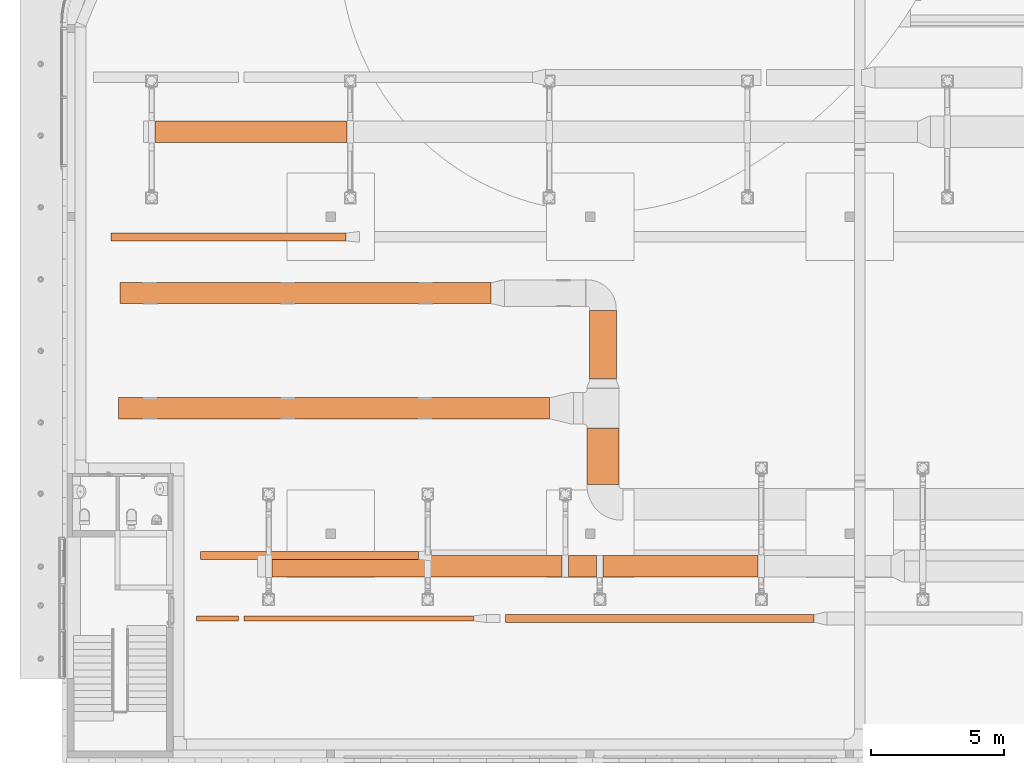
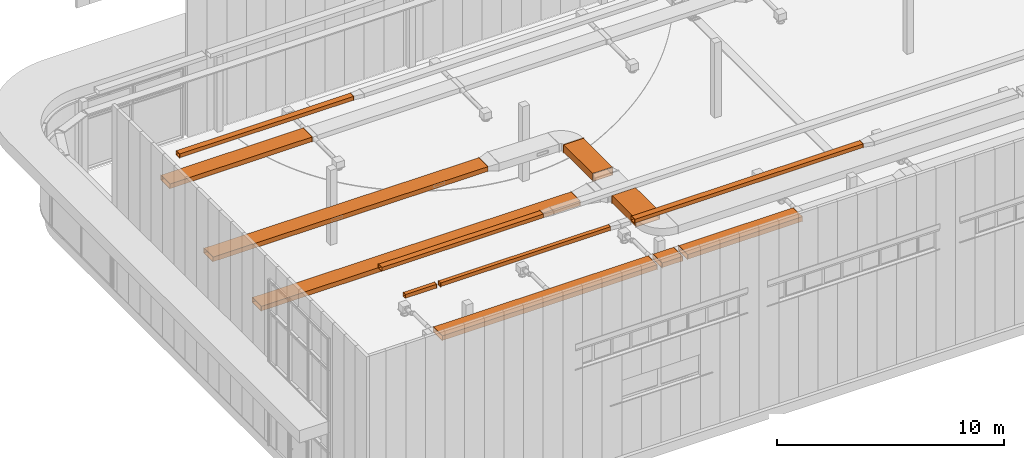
# One storey, part 291 of 302: 13 proxies.
"""IFC2X3 building model written with IfcOpenShell, lengths in metres."""

from ifc_helpers import new_model, entity, si_unit, converted_unit, derived_unit, direction, frame, origin, place, context, subcontext, project, spatial, face_set, surface_model, type_object, element, save


model = new_model("IFC2X3")

# Units and contexts
model_context = context("Model", 3, precision=1e-05, world=origin(), true_north=direction((6.12303176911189e-17, 1.0)))
body_context = subcontext(model_context, "Body", "Model", "MODEL_VIEW")
ifc_project = project(units=[si_unit("LENGTHUNIT", "METRE"), si_unit("AREAUNIT", "SQUARE_METRE"), si_unit("VOLUMEUNIT", "CUBIC_METRE"), converted_unit("PLANEANGLEUNIT", "DEGREE", entity("IfcRatioMeasure", 0.0174532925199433), si_unit("PLANEANGLEUNIT", "RADIAN"), dimensions=[0, 0, 0, 0, 0, 0, 0]), si_unit("MASSUNIT", "GRAM", prefix="KILO"), derived_unit("MASSDENSITYUNIT", [(si_unit("MASSUNIT", "GRAM", prefix="KILO"), 1), (si_unit("LENGTHUNIT", "METRE"), -3)]), derived_unit("MOMENTOFINERTIAUNIT", [(si_unit("LENGTHUNIT", "METRE"), 4)]), si_unit("TIMEUNIT", "SECOND"), si_unit("FREQUENCYUNIT", "HERTZ"), si_unit("THERMODYNAMICTEMPERATUREUNIT", "DEGREE_CELSIUS"), derived_unit("THERMALTRANSMITTANCEUNIT", [(si_unit("MASSUNIT", "GRAM", prefix="KILO"), 1), (si_unit("THERMODYNAMICTEMPERATUREUNIT", "KELVIN"), -1), (si_unit("TIMEUNIT", "SECOND"), -3)]), derived_unit("VOLUMETRICFLOWRATEUNIT", [(si_unit("LENGTHUNIT", "METRE"), 3), (si_unit("TIMEUNIT", "SECOND"), -1)]), si_unit("ELECTRICCURRENTUNIT", "AMPERE"), si_unit("ELECTRICVOLTAGEUNIT", "VOLT"), si_unit("POWERUNIT", "WATT"), si_unit("FORCEUNIT", "NEWTON", prefix="KILO"), si_unit("ILLUMINANCEUNIT", "LUX"), si_unit("LUMINOUSFLUXUNIT", "LUMEN"), si_unit("LUMINOUSINTENSITYUNIT", "CANDELA"), derived_unit("USERDEFINED", [(si_unit("MASSUNIT", "GRAM", prefix="KILO"), -1), (si_unit("LENGTHUNIT", "METRE"), -2), (si_unit("TIMEUNIT", "SECOND"), 3), (si_unit("LUMINOUSFLUXUNIT", "LUMEN"), 1)]), derived_unit("LINEARVELOCITYUNIT", [(si_unit("LENGTHUNIT", "METRE"), 1), (si_unit("TIMEUNIT", "SECOND"), -1)]), si_unit("PRESSUREUNIT", "PASCAL"), derived_unit("USERDEFINED", [(si_unit("LENGTHUNIT", "METRE"), -2), (si_unit("MASSUNIT", "GRAM", prefix="KILO"), 1), (si_unit("TIMEUNIT", "SECOND"), -2)]), derived_unit("LINEARFORCEUNIT", [(si_unit("MASSUNIT", "GRAM", prefix="KILO"), 1), (si_unit("LENGTHUNIT", "METRE"), 1), (si_unit("TIMEUNIT", "SECOND"), -2), (si_unit("LENGTHUNIT", "METRE"), -1)]), derived_unit("PLANARFORCEUNIT", [(si_unit("MASSUNIT", "GRAM", prefix="KILO"), 1), (si_unit("LENGTHUNIT", "METRE"), 1), (si_unit("TIMEUNIT", "SECOND"), -2), (si_unit("LENGTHUNIT", "METRE"), -2)])], contexts=[model_context])

# Site, building, storey
site_placement = place(None, origin())
site = spatial("IfcSite", under=ifc_project, at=site_placement, Name="Default", CompositionType="ELEMENT")
building_placement = place(site_placement, origin())
building = spatial("IfcBuilding", under=site, at=building_placement, CompositionType="ELEMENT")
storey_placement = place(building_placement, frame((0.0, 0.0, -1.3)))
storey = spatial("IfcBuildingStorey", under=building, at=storey_placement, Name="00_EG", CompositionType="ELEMENT", Elevation=-1.3)

# Proxies
building_element_proxy_type_1 = type_object("IfcBuildingElementProxyType", Name="Straight:Vorgabe", PredefinedType="NOTDEFINED")
proxy_1_placement = place(storey_placement, frame((-247.076926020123, 25.3124450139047, 4.82460000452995)))
element("IfcBuildingElementProxy", 1, at=proxy_1_placement, inside=storey, type_object=building_element_proxy_type_1, Name="Straight:Vorgabe", ObjectType="Straight:Vorgabe", context=body_context, shape_type="SurfaceModel", body=[
    surface_model("IfcFaceBasedSurfaceModel", [(1.22540005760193, 0.0, 0.425399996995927), (1.22540005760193, 2.11286347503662, 0.42539999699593), (0.0254000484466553, 2.11286347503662, 0.425399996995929), (0.0254000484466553, 0.0, 0.425399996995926), (0.0254000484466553, 2.11286347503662, 0.0253999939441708), (0.0254000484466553, 0.0, 0.0253999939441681), (1.22540005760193, 2.11286347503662, 0.0253999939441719), (1.22540005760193, 0.0, 0.0253999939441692), (1.25080010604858, 1.00000003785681e-06, 0.0), (1.25080010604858, 1.00000003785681e-06, 0.450799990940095), (0.0, 1.00000003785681e-06, 0.450799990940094), (0.0, 1.00000003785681e-06, 0.0), (0.0, 2.11286260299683, 0.0), (0.0, 2.11286260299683, 0.450799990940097), (1.25080010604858, 2.11286260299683, 0.450799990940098), (1.25080010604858, 2.11286260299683, 0.0)], [face_set([[[0, 1, 2]], [[2, 3, 0]], [[3, 2, 4]], [[4, 5, 3]], [[5, 4, 6]], [[6, 7, 5]], [[7, 6, 1]], [[1, 0, 7]], [[8, 7, 0]], [[0, 9, 8]], [[9, 0, 3]], [[3, 10, 9]], [[10, 3, 5]], [[5, 11, 10]], [[11, 5, 7]], [[7, 8, 11]], [[12, 4, 2]], [[2, 13, 12]], [[13, 2, 1]], [[1, 14, 13]], [[14, 1, 6]], [[6, 15, 14]], [[15, 6, 4]], [[4, 12, 15]]])]),
])
building_element_proxy_type_2 = type_object("IfcBuildingElementProxyType", Name="Straight:Vorgabe", PredefinedType="NOTDEFINED")
proxy_2_placement = place(storey_placement, frame((-246.976925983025, 29.2953086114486, 4.82460000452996)))
element("IfcBuildingElementProxy", 2, at=proxy_2_placement, inside=storey, type_object=building_element_proxy_type_2, Name="Straight:Vorgabe", ObjectType="Straight:Vorgabe", context=body_context, shape_type="SurfaceModel", body=[
    surface_model("IfcFaceBasedSurfaceModel", [(1.02540001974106, 0.0, 0.425399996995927), (1.02540001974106, 2.57376964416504, 0.42539999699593), (0.0254000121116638, 2.57376964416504, 0.425399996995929), (0.0254000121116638, 0.0, 0.425399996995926), (0.0254000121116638, 2.57376964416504, 0.0253999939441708), (0.0254000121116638, 0.0, 0.0253999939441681), (1.02540001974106, 2.57376964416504, 0.0253999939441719), (1.02540001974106, 0.0, 0.0253999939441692), (1.05080003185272, 1.00000003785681e-06, 0.0), (1.05080003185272, 1.00000003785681e-06, 0.450799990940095), (0.0, 1.00000003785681e-06, 0.450799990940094), (0.0, 1.00000003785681e-06, 0.0), (0.0, 2.57376877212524, 0.0), (0.0, 2.57376877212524, 0.450799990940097), (1.05080003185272, 2.57376877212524, 0.450799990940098), (1.05080003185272, 2.57376877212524, 0.0)], [face_set([[[0, 1, 2]], [[2, 3, 0]], [[3, 2, 4]], [[4, 5, 3]], [[5, 4, 6]], [[6, 7, 5]], [[7, 6, 1]], [[1, 0, 7]], [[8, 7, 0]], [[0, 9, 8]], [[9, 0, 3]], [[3, 10, 9]], [[10, 3, 5]], [[5, 11, 10]], [[11, 5, 7]], [[7, 8, 11]], [[12, 4, 2]], [[2, 13, 12]], [[13, 2, 1]], [[1, 14, 13]], [[14, 1, 6]], [[6, 15, 14]], [[15, 6, 4]], [[4, 12, 15]]])]),
])
building_element_proxy_type_3 = type_object("IfcBuildingElementProxyType", Name="Straight:Vorgabe", PredefinedType="NOTDEFINED")
proxy_3_placement = place(storey_placement, frame((-264.672465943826, 32.0986784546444, 4.9432209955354)))
element("IfcBuildingElementProxy", 3, at=proxy_3_placement, inside=storey, type_object=building_element_proxy_type_3, Name="Straight:Vorgabe", ObjectType="Straight:Vorgabe", context=body_context, shape_type="SurfaceModel", body=[
    surface_model("IfcFaceBasedSurfaceModel", [(14.0030683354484, 0.825399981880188, 0.275399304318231), (0.000617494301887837, 0.825399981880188, 0.306778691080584), (0.000617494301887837, 0.0253999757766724, 0.306778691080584), (14.0030683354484, 0.0253999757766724, 0.275399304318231), (5.724758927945e-05, 0.0253999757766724, 0.0567793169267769), (14.0025080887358, 0.0253999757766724, 0.0253999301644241), (5.724758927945e-05, 0.825399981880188, 0.0567793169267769), (14.0025080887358, 0.825399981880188, 0.0253999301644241), (14.0024501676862, 0.85079995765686, 2.24098702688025e-09), (14.0031242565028, 0.85079995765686, 0.300799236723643), (14.0031242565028, 0.0, 0.300799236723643), (14.0024501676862, 0.0, 2.24098702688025e-09), (1.48925406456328e-06, 0.0, 0.0313793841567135), (0.000675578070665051, 0.0, 0.332178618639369), (0.000675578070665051, 0.85079995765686, 0.332178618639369), (1.48925406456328e-06, 0.85079995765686, 0.0313793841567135)], [face_set([[[0, 1, 2]], [[2, 3, 0]], [[3, 2, 4]], [[4, 5, 3]], [[5, 4, 6]], [[6, 7, 5]], [[7, 6, 1]], [[1, 0, 7]], [[8, 7, 0]], [[0, 9, 8]], [[9, 0, 3]], [[3, 10, 9]], [[10, 3, 5]], [[5, 11, 10]], [[11, 5, 7]], [[7, 8, 11]], [[12, 4, 2]], [[2, 13, 12]], [[13, 2, 1]], [[1, 14, 13]], [[14, 1, 6]], [[6, 15, 14]], [[15, 6, 4]], [[4, 12, 15]]])]),
])
building_element_proxy_type_4 = type_object("IfcBuildingElementProxyType", Name="Straight:Vorgabe", PredefinedType="NOTDEFINED")
proxy_4_placement = place(storey_placement, frame((-258.934474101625, 21.796415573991, 4.97460000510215)))
element("IfcBuildingElementProxy", 4, at=proxy_4_placement, inside=storey, type_object=building_element_proxy_type_4, Name="Straight:Vorgabe", ObjectType="Straight:Vorgabe", context=body_context, shape_type="SurfaceModel", body=[
    surface_model("IfcFaceBasedSurfaceModel", [(10.9400570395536, 0.825399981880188, 0.275399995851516), (3.89773362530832e-07, 0.825399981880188, 0.275399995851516), (3.89773362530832e-07, 0.0253999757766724, 0.275399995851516), (10.9400570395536, 0.0253999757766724, 0.275399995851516), (3.89773362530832e-07, 0.0253999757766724, 0.0253999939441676), (10.9400570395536, 0.0253999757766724, 0.0253999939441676), (3.89773362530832e-07, 0.825399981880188, 0.0253999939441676), (10.9400570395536, 0.825399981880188, 0.0253999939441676), (10.9400560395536, 0.85079995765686, 0.0), (10.9400560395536, 0.85079995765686, 0.300799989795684), (10.9400560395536, 0.0, 0.300799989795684), (10.9400560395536, 0.0, 0.0), (1.55249308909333e-06, 0.0, 0.0), (1.55249308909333e-06, 0.0, 0.300799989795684), (1.55249308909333e-06, 0.85079995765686, 0.300799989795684), (1.55249308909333e-06, 0.85079995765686, 0.0)], [face_set([[[0, 1, 2]], [[2, 3, 0]], [[3, 2, 4]], [[4, 5, 3]], [[5, 4, 6]], [[6, 7, 5]], [[7, 6, 1]], [[1, 0, 7]], [[8, 7, 0]], [[0, 9, 8]], [[9, 0, 3]], [[3, 10, 9]], [[10, 3, 5]], [[5, 11, 10]], [[11, 5, 7]], [[7, 8, 11]], [[12, 4, 2]], [[2, 13, 12]], [[13, 2, 1]], [[1, 14, 13]], [[14, 1, 6]], [[6, 15, 14]], [[15, 6, 4]], [[4, 12, 15]]])]),
])
building_element_proxy_type_5 = type_object("IfcBuildingElementProxyType", Name="Straight:Vorgabe", PredefinedType="NOTDEFINED")
proxy_5_placement = place(storey_placement, frame((-247.744417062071, 21.796415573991, 4.97460000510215)))
element("IfcBuildingElementProxy", 5, at=proxy_5_placement, inside=storey, type_object=building_element_proxy_type_5, Name="Straight:Vorgabe", ObjectType="Straight:Vorgabe", context=body_context, shape_type="SurfaceModel", body=[
    surface_model("IfcFaceBasedSurfaceModel", [(0.0, 0.0253999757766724, 0.275399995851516), (1.04817664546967, 0.0253999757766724, 0.275399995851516), (1.04817664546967, 0.825399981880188, 0.275399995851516), (0.0, 0.825399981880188, 0.275399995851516), (1.04817664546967, 0.825399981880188, 0.0253999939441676), (0.0, 0.825399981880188, 0.0253999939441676), (1.04817664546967, 0.0253999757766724, 0.0253999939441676), (0.0, 0.0253999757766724, 0.0253999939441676), (1.00000003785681e-06, 0.0, 0.0), (1.00000003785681e-06, 0.0, 0.300799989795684), (1.00000003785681e-06, 0.85079995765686, 0.300799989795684), (1.00000003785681e-06, 0.85079995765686, 0.0), (1.0481756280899, 0.85079995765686, 0.0), (1.0481756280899, 0.85079995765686, 0.300799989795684), (1.0481756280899, 0.0, 0.300799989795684), (1.0481756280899, 0.0, 0.0)], [face_set([[[0, 1, 2]], [[2, 3, 0]], [[3, 2, 4]], [[4, 5, 3]], [[5, 4, 6]], [[6, 7, 5]], [[7, 6, 1]], [[1, 0, 7]], [[8, 7, 0]], [[0, 9, 8]], [[9, 0, 3]], [[3, 10, 9]], [[10, 3, 5]], [[5, 11, 10]], [[11, 5, 7]], [[7, 8, 11]], [[12, 4, 2]], [[2, 13, 12]], [[13, 2, 1]], [[1, 14, 13]], [[14, 1, 6]], [[6, 15, 14]], [[15, 6, 4]], [[4, 12, 15]]])]),
])
building_element_proxy_type_6 = type_object("IfcBuildingElementProxyType", Name="Straight:Vorgabe", PredefinedType="NOTDEFINED")
proxy_6_placement = place(storey_placement, frame((-264.722128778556, 27.7533086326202, 4.97460000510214)))
element("IfcBuildingElementProxy", 6, at=proxy_6_placement, inside=storey, type_object=building_element_proxy_type_6, Name="Straight:Vorgabe", ObjectType="Straight:Vorgabe", context=body_context, shape_type="SurfaceModel", body=[
    surface_model("IfcFaceBasedSurfaceModel", [(16.2446028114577, 0.825399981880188, 0.275399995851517), (1.77790669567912e-07, 0.825399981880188, 0.275399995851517), (1.77790669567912e-07, 0.0253999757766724, 0.275399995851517), (16.2446028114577, 0.0253999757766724, 0.275399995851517), (1.77790669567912e-07, 0.0253999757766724, 0.0253999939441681), (16.2446028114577, 0.0253999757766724, 0.0253999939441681), (1.77790669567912e-07, 0.825399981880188, 0.0253999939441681), (16.2446028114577, 0.825399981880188, 0.0253999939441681), (16.2446018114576, 0.85079995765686, 0.0), (16.2446018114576, 0.85079995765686, 0.300799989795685), (16.2446018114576, 0.0, 0.300799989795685), (16.2446018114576, 0.0, 0.0), (1.34051039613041e-06, 0.0, 0.0), (1.34051039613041e-06, 0.0, 0.300799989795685), (1.34051039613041e-06, 0.85079995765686, 0.300799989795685), (1.34051039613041e-06, 0.85079995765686, 0.0)], [face_set([[[0, 1, 2]], [[2, 3, 0]], [[3, 2, 4]], [[4, 5, 3]], [[5, 4, 6]], [[6, 7, 5]], [[7, 6, 1]], [[1, 0, 7]], [[8, 7, 0]], [[0, 9, 8]], [[9, 0, 3]], [[3, 10, 9]], [[10, 3, 5]], [[5, 11, 10]], [[11, 5, 7]], [[7, 8, 11]], [[12, 4, 2]], [[2, 13, 12]], [[13, 2, 1]], [[1, 14, 13]], [[14, 1, 6]], [[6, 15, 14]], [[15, 6, 4]], [[4, 12, 15]]])]),
])
building_element_proxy_type_7 = type_object("IfcBuildingElementProxyType", Name="Straight:Vorgabe", PredefinedType="NOTDEFINED")
proxy_7_placement = place(storey_placement, frame((-263.351224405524, 38.1828258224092, 4.75960000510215)))
element("IfcBuildingElementProxy", 7, at=proxy_7_placement, inside=storey, type_object=building_element_proxy_type_7, Name="Straight:Vorgabe", ObjectType="Straight:Vorgabe", context=body_context, shape_type="SurfaceModel", body=[
    surface_model("IfcFaceBasedSurfaceModel", [(0.0, 0.0253999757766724, 0.275399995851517), (7.24294045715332, 0.0253999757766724, 0.275399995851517), (7.24294045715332, 0.825399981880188, 0.275399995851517), (0.0, 0.825399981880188, 0.275399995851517), (7.24294045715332, 0.825399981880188, 0.0253999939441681), (0.0, 0.825399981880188, 0.0253999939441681), (7.24294045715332, 0.0253999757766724, 0.0253999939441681), (0.0, 0.0253999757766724, 0.0253999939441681), (1.00000003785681e-06, 0.0, 0.0), (1.00000003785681e-06, 0.0, 0.300799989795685), (1.00000003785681e-06, 0.850799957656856, 0.300799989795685), (1.00000003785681e-06, 0.850799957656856, 0.0), (7.24293871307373, 0.850799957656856, 0.0), (7.24293871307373, 0.850799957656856, 0.300799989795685), (7.24293871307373, 0.0, 0.300799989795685), (7.24293871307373, 0.0, 0.0)], [face_set([[[0, 1, 2]], [[2, 3, 0]], [[3, 2, 4]], [[4, 5, 3]], [[5, 4, 6]], [[6, 7, 5]], [[7, 6, 1]], [[1, 0, 7]], [[8, 7, 0]], [[0, 9, 8]], [[9, 0, 3]], [[3, 10, 9]], [[10, 3, 5]], [[5, 11, 10]], [[11, 5, 7]], [[7, 8, 11]], [[12, 4, 2]], [[2, 13, 12]], [[13, 2, 1]], [[1, 14, 13]], [[14, 1, 6]], [[6, 15, 14]], [[15, 6, 4]], [[4, 12, 15]]])]),
])
building_element_proxy_type_8 = type_object("IfcBuildingElementProxyType", Name="Straight:Vorgabe", PredefinedType="NOTDEFINED")
proxy_8_placement = place(storey_placement, frame((-246.446240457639, 21.796415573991, 4.97460000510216)))
element("IfcBuildingElementProxy", 8, at=proxy_8_placement, inside=storey, type_object=building_element_proxy_type_8, Name="Straight:Vorgabe", ObjectType="Straight:Vorgabe", context=body_context, shape_type="SurfaceModel", body=[
    surface_model("IfcFaceBasedSurfaceModel", [(5.8424913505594, 0.825399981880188, 0.275399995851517), (2.95261551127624e-07, 0.825399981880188, 0.275399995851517), (2.95261551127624e-07, 0.0253999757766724, 0.275399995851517), (5.8424913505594, 0.0253999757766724, 0.275399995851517), (2.95261551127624e-07, 0.0253999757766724, 0.0253999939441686), (5.8424913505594, 0.0253999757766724, 0.0253999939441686), (2.95261551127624e-07, 0.825399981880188, 0.0253999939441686), (5.8424913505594, 0.825399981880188, 0.0253999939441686), (5.84249035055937, 0.85079995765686, 0.0), (5.84249035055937, 0.85079995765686, 0.300799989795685), (5.84249035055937, 0.0, 0.300799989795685), (5.84249035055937, 0.0, 0.0), (8.76621414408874e-07, 0.0, 0.0), (8.76621414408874e-07, 0.0, 0.300799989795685), (8.76621414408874e-07, 0.85079995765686, 0.300799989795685), (8.76621414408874e-07, 0.85079995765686, 0.0)], [face_set([[[0, 1, 2]], [[2, 3, 0]], [[3, 2, 4]], [[4, 5, 3]], [[5, 4, 6]], [[6, 7, 5]], [[7, 6, 1]], [[1, 0, 7]], [[8, 7, 0]], [[0, 9, 8]], [[9, 0, 3]], [[3, 10, 9]], [[10, 3, 5]], [[5, 11, 10]], [[11, 5, 7]], [[7, 8, 11]], [[12, 4, 2]], [[2, 13, 12]], [[13, 2, 1]], [[1, 14, 13]], [[14, 1, 6]], [[6, 15, 14]], [[15, 6, 4]], [[4, 12, 15]]])]),
])
building_element_proxy_type_9 = type_object("IfcBuildingElementProxyType", Name="Straight:Vorgabe", PredefinedType="NOTDEFINED")
proxy_9_placement = place(storey_placement, frame((-250.136082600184, 20.0778096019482, 9.25459999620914)))
element("IfcBuildingElementProxy", 9, at=proxy_9_placement, inside=storey, type_object=building_element_proxy_type_9, Name="Straight:Vorgabe", ObjectType="Straight:Vorgabe", context=body_context, shape_type="SurfaceModel", body=[
    surface_model("IfcFaceBasedSurfaceModel", [(11.6416010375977, 0.325399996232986, 0.225400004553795), (0.0, 0.325399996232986, 0.225400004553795), (0.0, 0.0253999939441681, 0.225400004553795), (11.6416010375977, 0.0253999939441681, 0.225400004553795), (0.0, 0.0253999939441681, 0.025400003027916), (11.6416010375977, 0.0253999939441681, 0.025400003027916), (0.0, 0.325399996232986, 0.025400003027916), (11.6416010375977, 0.325399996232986, 0.025400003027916), (11.6416000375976, 0.350799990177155, 0.0), (11.6416000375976, 0.350799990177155, 0.250800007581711), (11.6416000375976, 0.0, 0.250800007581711), (11.6416000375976, 0.0, 0.0), (1.1627197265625e-06, 0.0, 0.0), (1.1627197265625e-06, 0.0, 0.250800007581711), (1.1627197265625e-06, 0.350799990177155, 0.250800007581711), (1.1627197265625e-06, 0.350799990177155, 0.0)], [face_set([[[0, 1, 2]], [[2, 3, 0]], [[3, 2, 4]], [[4, 5, 3]], [[5, 4, 6]], [[6, 7, 5]], [[7, 6, 1]], [[1, 0, 7]], [[8, 7, 0]], [[0, 9, 8]], [[9, 0, 3]], [[3, 10, 9]], [[10, 3, 5]], [[5, 11, 10]], [[11, 5, 7]], [[7, 8, 11]], [[12, 4, 2]], [[2, 13, 12]], [[13, 2, 1]], [[1, 14, 13]], [[14, 1, 6]], [[6, 15, 14]], [[15, 6, 4]], [[4, 12, 15]]])]),
])
building_element_proxy_type_10 = type_object("IfcBuildingElementProxyType", Name="Straight:Vorgabe", PredefinedType="NOTDEFINED")
proxy_10_placement = place(storey_placement, frame((-265.0036966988, 34.4693624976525, 9.25459999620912)))
element("IfcBuildingElementProxy", 10, at=proxy_10_placement, inside=storey, type_object=building_element_proxy_type_10, Name="Straight:Vorgabe", ObjectType="Straight:Vorgabe", context=body_context, shape_type="SurfaceModel", body=[
    surface_model("IfcFaceBasedSurfaceModel", [(8.86638114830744, 0.325399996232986, 0.225400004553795), (2.49259588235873e-07, 0.325399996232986, 0.225400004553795), (2.49259588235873e-07, 0.0253999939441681, 0.225400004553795), (8.86638114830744, 0.0253999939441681, 0.225400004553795), (2.49259588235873e-07, 0.0253999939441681, 0.025400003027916), (8.86638114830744, 0.0253999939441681, 0.025400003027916), (2.49259588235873e-07, 0.325399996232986, 0.025400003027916), (8.86638114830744, 0.325399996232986, 0.025400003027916), (8.8663801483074, 0.350799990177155, 0.0), (8.8663801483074, 0.350799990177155, 0.250800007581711), (8.8663801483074, 0.0, 0.250800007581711), (8.8663801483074, 0.0, 0.0), (1.41197931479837e-06, 0.0, 0.0), (1.41197931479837e-06, 0.0, 0.250800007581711), (1.41197931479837e-06, 0.350799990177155, 0.250800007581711), (1.41197931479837e-06, 0.350799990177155, 0.0)], [face_set([[[0, 1, 2]], [[2, 3, 0]], [[3, 2, 4]], [[4, 5, 3]], [[5, 4, 6]], [[6, 7, 5]], [[7, 6, 1]], [[1, 0, 7]], [[8, 7, 0]], [[0, 9, 8]], [[9, 0, 3]], [[3, 10, 9]], [[10, 3, 5]], [[5, 11, 10]], [[11, 5, 7]], [[7, 8, 11]], [[12, 4, 2]], [[2, 13, 12]], [[13, 2, 1]], [[1, 14, 13]], [[14, 1, 6]], [[6, 15, 14]], [[15, 6, 4]], [[4, 12, 15]]])]),
])
building_element_proxy_type_11 = type_object("IfcBuildingElementProxyType", Name="Straight:Vorgabe", PredefinedType="NOTDEFINED")
proxy_11_placement = place(storey_placement, frame((-261.63797048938, 22.452670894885, 9.25459999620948)))
element("IfcBuildingElementProxy", 11, at=proxy_11_placement, inside=storey, type_object=building_element_proxy_type_11, Name="Straight:Vorgabe", ObjectType="Straight:Vorgabe", context=body_context, shape_type="SurfaceModel", body=[
    surface_model("IfcFaceBasedSurfaceModel", [(8.22494737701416, 0.325399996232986, 0.225400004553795), (0.0, 0.325399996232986, 0.225400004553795), (0.0, 0.0253999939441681, 0.225400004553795), (8.22494737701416, 0.0253999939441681, 0.225400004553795), (0.0, 0.0253999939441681, 0.025400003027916), (8.22494737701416, 0.0253999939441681, 0.025400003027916), (0.0, 0.325399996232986, 0.025400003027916), (8.22494737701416, 0.325399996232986, 0.025400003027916), (8.22494637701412, 0.350799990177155, 0.0), (8.22494637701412, 0.350799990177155, 0.250800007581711), (8.22494637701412, 0.0, 0.250800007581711), (8.22494637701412, 0.0, 0.0), (1.1627197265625e-06, 0.0, 0.0), (1.1627197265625e-06, 0.0, 0.250800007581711), (1.1627197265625e-06, 0.350799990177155, 0.250800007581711), (1.1627197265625e-06, 0.350799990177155, 0.0)], [face_set([[[0, 1, 2]], [[2, 3, 0]], [[3, 2, 4]], [[4, 5, 3]], [[5, 4, 6]], [[6, 7, 5]], [[7, 6, 1]], [[1, 0, 7]], [[8, 7, 0]], [[0, 9, 8]], [[9, 0, 3]], [[3, 10, 9]], [[10, 3, 5]], [[5, 11, 10]], [[11, 5, 7]], [[7, 8, 11]], [[12, 4, 2]], [[2, 13, 12]], [[13, 2, 1]], [[1, 14, 13]], [[14, 1, 6]], [[6, 15, 14]], [[15, 6, 4]], [[4, 12, 15]]])]),
])
building_element_proxy_type_12 = type_object("IfcBuildingElementProxyType", Name="Straight:Vorgabe", PredefinedType="NOTDEFINED")
proxy_12_placement = place(storey_placement, frame((-259.992263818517, 20.127809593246, 9.25459999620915)))
element("IfcBuildingElementProxy", 12, at=proxy_12_placement, inside=storey, type_object=building_element_proxy_type_12, Name="Straight:Vorgabe", ObjectType="Straight:Vorgabe", context=body_context, shape_type="SurfaceModel", body=[
    surface_model("IfcFaceBasedSurfaceModel", [(8.64933141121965, 0.225400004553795, 0.225400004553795), (6.35767993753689e-07, 0.225400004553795, 0.225400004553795), (6.35767993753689e-07, 0.025400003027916, 0.225400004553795), (8.64933141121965, 0.025400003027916, 0.225400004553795), (6.35767993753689e-07, 0.025400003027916, 0.025400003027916), (8.64933141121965, 0.025400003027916, 0.025400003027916), (6.35767993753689e-07, 0.225400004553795, 0.025400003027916), (8.64933141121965, 0.225400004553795, 0.025400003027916), (8.64933041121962, 0.250800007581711, 0.0), (8.64933041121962, 0.250800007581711, 0.250800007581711), (8.64933041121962, 0.0, 0.250800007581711), (8.64933041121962, 0.0, 0.0), (1.21712785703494e-06, 0.0, 0.0), (1.21712785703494e-06, 0.0, 0.250800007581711), (1.21712785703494e-06, 0.250800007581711, 0.250800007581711), (1.21712785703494e-06, 0.250800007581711, 0.0)], [face_set([[[0, 1, 2]], [[2, 3, 0]], [[3, 2, 4]], [[4, 5, 3]], [[5, 4, 6]], [[6, 7, 5]], [[7, 6, 1]], [[1, 0, 7]], [[8, 7, 0]], [[0, 9, 8]], [[9, 0, 3]], [[3, 10, 9]], [[10, 3, 5]], [[5, 11, 10]], [[11, 5, 7]], [[7, 8, 11]], [[12, 4, 2]], [[2, 13, 12]], [[13, 2, 1]], [[1, 14, 13]], [[14, 1, 6]], [[6, 15, 14]], [[15, 6, 4]], [[4, 12, 15]]])]),
])
building_element_proxy_type_13 = type_object("IfcBuildingElementProxyType", Name="Straight:Vorgabe", PredefinedType="NOTDEFINED")
proxy_13_placement = place(storey_placement, frame((-261.77926555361, 20.127809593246, 9.25459999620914)))
element("IfcBuildingElementProxy", 13, at=proxy_13_placement, inside=storey, type_object=building_element_proxy_type_13, Name="Straight:Vorgabe", ObjectType="Straight:Vorgabe", context=body_context, shape_type="SurfaceModel", body=[
    surface_model("IfcFaceBasedSurfaceModel", [(0.0, 0.025400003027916, 0.225400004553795), (1.58700167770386, 0.025400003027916, 0.225400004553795), (1.58700167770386, 0.225400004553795, 0.225400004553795), (0.0, 0.225400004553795, 0.225400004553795), (1.58700167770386, 0.225400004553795, 0.025400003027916), (0.0, 0.225400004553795, 0.025400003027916), (1.58700167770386, 0.025400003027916, 0.025400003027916), (0.0, 0.025400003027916, 0.025400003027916), (1.00000003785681e-06, 0.0, 0.0), (1.00000003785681e-06, 0.0, 0.250800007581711), (1.00000003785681e-06, 0.250800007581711, 0.250800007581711), (1.00000003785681e-06, 0.250800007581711, 0.0), (1.5870006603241, 0.250800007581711, 0.0), (1.5870006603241, 0.250800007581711, 0.250800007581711), (1.5870006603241, 0.0, 0.250800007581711), (1.5870006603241, 0.0, 0.0)], [face_set([[[0, 1, 2]], [[2, 3, 0]], [[3, 2, 4]], [[4, 5, 3]], [[5, 4, 6]], [[6, 7, 5]], [[7, 6, 1]], [[1, 0, 7]], [[8, 7, 0]], [[0, 9, 8]], [[9, 0, 3]], [[3, 10, 9]], [[10, 3, 5]], [[5, 11, 10]], [[11, 5, 7]], [[7, 8, 11]], [[12, 4, 2]], [[2, 13, 12]], [[13, 2, 1]], [[1, 14, 13]], [[14, 1, 6]], [[6, 15, 14]], [[15, 6, 4]], [[4, 12, 15]]])]),
])

save(model, "model.ifc")
